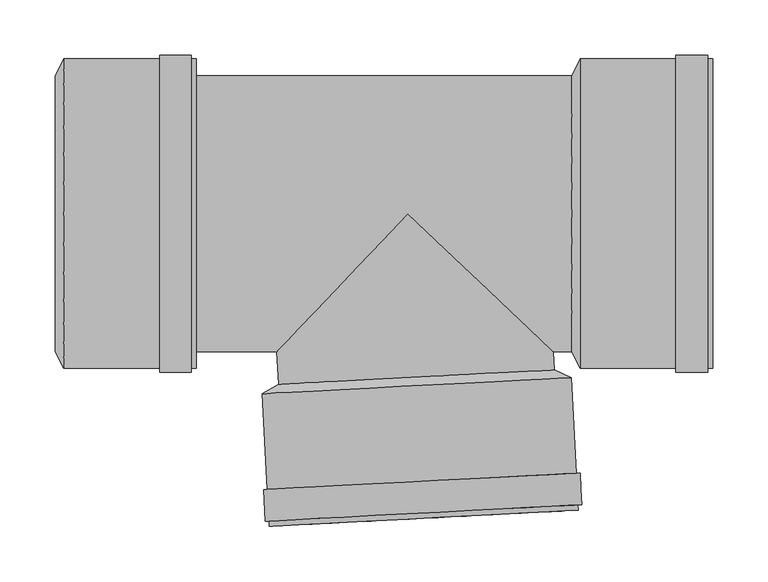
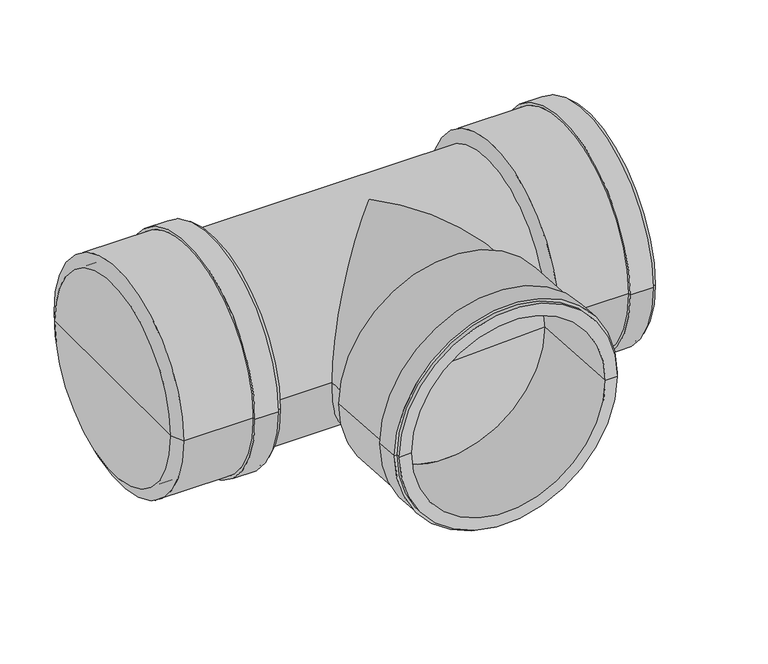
"""IFC4 building model written with IfcOpenShell, lengths in millimetres: pipe fitting geometry, pf_KGEA : pf_KGEA."""

import ifcopenshell
import ifcopenshell.guid

model = None  # the IFC model being written
_history = None  # IfcOwnerHistory: only IFC2X3 demands one
_inside = {}  # id of a spatial element -> (the spatial element, [elements in it])
_under = {}  # id of a project, library or spatial element -> (it, [spatial elements below it])
_declared = {}  # id of a project -> (the project, [libraries it declares])
_typed = {}  # id of a type object -> (the type object, [elements of that type])
_made_of = {}  # id of a material, layer set ... -> (it, [elements and type objects made of it])


def new_model(schema):
    """Start an empty IFC model of exactly this schema.

    Asked for "IFC4X3", IfcOpenShell would pick the latest addendum, in which some entities
    have other attributes; the version numbers below select the first issue.
    IFC2X3 requires an IfcOwnerHistory on every rooted entity: one is made here for all.
    """
    global model, _history
    if schema == "IFC4X3":
        model = ifcopenshell.file(schema_version=(4, 3, 0, 0))
    else:
        model = ifcopenshell.file(schema=schema)
    _inside.clear()
    _under.clear()
    _declared.clear()
    _typed.clear()
    _made_of.clear()
    _history = None
    if model.schema == "IFC2X3":
        org = make("IfcOrganization", Name="unknown")
        user = make(
            "IfcPersonAndOrganization",
            ThePerson=make("IfcPerson", FamilyName="unknown"),
            TheOrganization=org,
        )
        app = make(
            "IfcApplication",
            ApplicationDeveloper=org,
            Version="unknown",
            ApplicationFullName="unknown",
            ApplicationIdentifier="unknown",
        )
        _history = make(
            "IfcOwnerHistory",
            OwningUser=user,
            OwningApplication=app,
            ChangeAction="ADDED",
            CreationDate=0,
        )
    return model


def make(cls, **values):
    """One entity of the class cls with the attributes given. An attribute that is None is left unset."""
    return model.create_entity(
        cls, **{name: value for name, value in values.items() if value is not None}
    )


def rooted(cls, **values):
    """An entity with a GlobalId (a new one), such as an element, a storey or a relation."""
    return make(cls, GlobalId=ifcopenshell.guid.new(), OwnerHistory=_history, **values)


def si_unit(unit_type, name, prefix=None):
    """IfcSIUnit, for example si_unit("LENGTHUNIT", "METRE", prefix="MILLI")."""
    return make("IfcSIUnit", UnitType=unit_type, Prefix=prefix, Name=name)


def assignment(units):
    """IfcUnitAssignment: the units of a project."""
    return None if units is None else make("IfcUnitAssignment", Units=units)


def point(xyz):
    """IfcCartesianPoint."""
    return None if xyz is None else make("IfcCartesianPoint", Coordinates=xyz)


def direction(xyz):
    """IfcDirection."""
    return None if xyz is None else make("IfcDirection", DirectionRatios=xyz)


def frame(location, z_axis=None, x_axis=None):
    """IfcAxis2Placement3D, a coordinate frame: its origin and axes. An axis left out is left unset."""
    return make(
        "IfcAxis2Placement3D",
        Location=point(location),
        Axis=direction(z_axis),
        RefDirection=direction(x_axis),
    )


def origin():
    """The frame at (0, 0, 0) with its axes left unset."""
    return frame((0.0, 0.0, 0.0))


def place(relative_to, where):
    """IfcLocalPlacement: puts the frame where relative to a parent placement (None: the world)."""
    return make(
        "IfcLocalPlacement", PlacementRelTo=relative_to, RelativePlacement=where
    )


def context(
    kind, dimensions, precision=None, world=None, true_north=None, identifier=None
):
    """IfcGeometricRepresentationContext, for example the 3D "Model" context."""
    return make(
        "IfcGeometricRepresentationContext",
        ContextIdentifier=identifier,
        ContextType=kind,
        CoordinateSpaceDimension=dimensions,
        Precision=precision,
        WorldCoordinateSystem=world,
        TrueNorth=true_north,
    )


def project(units=None, contexts=None):
    """IfcProject with its units and contexts."""
    return rooted(
        "IfcProject",
        Name="project",
        RepresentationContexts=contexts,
        UnitsInContext=assignment(units),
    )


def spatial(cls, under=None, at=None, **own):
    """A site, building, storey or space (cls), placed at a placement, below another one or the project."""
    s = rooted(cls, ObjectPlacement=at, **own)
    if under is not None:
        _under.setdefault(under.id(), (under, []))[1].append(s)
    return s


def polyline(points):
    """IfcPolyline through the points."""
    return make("IfcPolyline", Points=[point(p) for p in points])


def circle_curve(where, radius):
    """IfcCircle in the frame where."""
    return make("IfcCircle", Position=where, Radius=radius)


def ellipse_curve(where, semi_axis1, semi_axis2):
    """IfcEllipse in the frame where."""
    return make(
        "IfcEllipse", Position=where, SemiAxis1=semi_axis1, SemiAxis2=semi_axis2
    )


def shape(context_of_items, identifier, shape_type, items):
    """IfcShapeRepresentation: the items that make up one representation, for example the "Body"."""
    return make(
        "IfcShapeRepresentation",
        ContextOfItems=context_of_items,
        RepresentationIdentifier=identifier,
        RepresentationType=shape_type,
        Items=items,
    )


def source(mapping_origin, context_of_items, identifier, shape_type, items):
    """IfcRepresentationMap: a shape defined once, which mapped items show again and again."""
    return make(
        "IfcRepresentationMap",
        MappingOrigin=mapping_origin,
        MappedRepresentation=shape(context_of_items, identifier, shape_type, items),
    )


def transform(
    local_origin,
    x_axis=None,
    y_axis=None,
    z_axis=None,
    scale=None,
    scale2=None,
    scale3=None,
    uniform=True,
):
    """IfcCartesianTransformationOperator3D, or its non-uniform kind. x_axis, y_axis, z_axis: its Axis1, 2, 3."""
    if uniform:
        return make(
            "IfcCartesianTransformationOperator3D",
            Axis1=direction(x_axis),
            Axis2=direction(y_axis),
            LocalOrigin=point(local_origin),
            Scale=scale,
            Axis3=direction(z_axis),
        )
    return make(
        "IfcCartesianTransformationOperator3DnonUniform",
        Axis1=direction(x_axis),
        Axis2=direction(y_axis),
        LocalOrigin=point(local_origin),
        Scale=scale,
        Axis3=direction(z_axis),
        Scale2=scale2,
        Scale3=scale3,
    )


def mapped(mapping_source, mapping_target):
    """IfcMappedItem: shows the shape of a source again, moved by a transform."""
    return make(
        "IfcMappedItem", MappingSource=mapping_source, MappingTarget=mapping_target
    )


def made_of(thing, what):
    """Note that an element or type object is made of a material, layer set ...; save() writes the relation."""
    if what is not None:
        _made_of.setdefault(what.id(), (what, []))[1].append(thing)
    return thing


def element(
    cls,
    number,
    at=None,
    inside=None,
    cuts=None,
    type_object=None,
    material=None,
    context=None,
    identifier="Body",
    shape_type=None,
    held_by="IfcProductDefinitionShape",
    body=None,
    shapes=None,
    **own,
):
    """One element of the class cls, such as IfcWall. Its Tag is "e" and its number.

    at: its placement. inside: the storey or other place that contains it. cuts: it is an
    opening in that element (IfcRelVoidsElement). A single representation is given by context,
    identifier, shape_type and body (its items); several are given by shapes. held_by: the class
    of the entity that holds the representations. save() writes the other relations.
    """
    e = rooted(cls, Tag="e%d" % number, ObjectPlacement=at, **own)
    if body is not None:
        shapes = [shape(context, identifier, shape_type, body)]
    if shapes is not None:
        e.Representation = make(held_by, Representations=shapes)
    if inside is not None:
        _inside.setdefault(inside.id(), (inside, []))[1].append(e)
    if cuts is not None:
        rooted(
            "IfcRelVoidsElement", RelatingBuildingElement=cuts, RelatedOpeningElement=e
        )
    if type_object is not None:
        _typed.setdefault(type_object.id(), (type_object, []))[1].append(e)
    return made_of(e, material)


def aggregate(whole, parts):
    """IfcRelAggregates: a whole, such as a stair, and the parts it consists of."""
    return rooted("IfcRelAggregates", RelatingObject=whole, RelatedObjects=parts)


def save(model, path):
    """Write the relations noted so far, then the file.

    IfcRelAggregates (storeys below a building ...), IfcRelContainedInSpatialStructure (elements
    in a storey), IfcRelDefinesByType, IfcRelAssociatesMaterial and IfcRelDeclares: one each for
    every whole, place, type object, material and project.
    """
    for whole, parts in _under.values():
        aggregate(whole, parts)
    for where, things in _inside.values():
        rooted(
            "IfcRelContainedInSpatialStructure",
            RelatedElements=things,
            RelatingStructure=where,
        )
    for kind, things in _typed.values():
        rooted("IfcRelDefinesByType", RelatedObjects=things, RelatingType=kind)
    for what, things in _made_of.values():
        rooted("IfcRelAssociatesMaterial", RelatedObjects=things, RelatingMaterial=what)
    for by, libraries in _declared.values():
        rooted("IfcRelDeclares", RelatingContext=by, RelatedDefinitions=libraries)
    model.write(path)


def plane_surface(at):
    """IfcPlane: the flat surface through the origin of the frame at, square to its z axis."""
    return make("IfcPlane", Position=at)


def cylinder_surface(at, radius):
    """IfcCylindricalSurface: all points at the distance radius from the z axis of the frame at."""
    return make("IfcCylindricalSurface", Position=at, Radius=radius)


def revolved_surface(curve, axis_point, axis_direction):
    """IfcSurfaceOfRevolution: the curve turned about the line through axis_point along axis_direction."""
    return make(
        "IfcSurfaceOfRevolution",
        SweptCurve=make("IfcArbitraryOpenProfileDef", ProfileType="CURVE", Curve=curve),
        AxisPosition=make("IfcAxis1Placement", Location=point(axis_point), Axis=direction(axis_direction)),
    )


def advanced_brep(points, edges, surfaces, faces):
    """IfcAdvancedBrep: a solid bounded by faces that lie on surfaces and meet in shared edges.

    An edge is (start, end): straight between two places in points (the first is 0);
    or (start, end, curve); or (start, end, curve, False) where it runs against its curve.
    A face is (place in surfaces, loops), or (place, loops, False) where it looks against
    its surface's normal. A loop lists edges by number (the first is 1), with a minus sign
    where the edge is run from its end to its start. The first loop is the outer one.
    """
    corners = [point(p) for p in points]
    vertices = [make("IfcVertexPoint", VertexGeometry=c) for c in corners]
    made = []
    for start, end, *more in edges:
        made.append(
            make(
                "IfcEdgeCurve",
                EdgeStart=vertices[start],
                EdgeEnd=vertices[end],
                EdgeGeometry=more[0] if more else make("IfcPolyline", Points=[corners[start], corners[end]]),
                SameSense=more[1] if len(more) > 1 else True,
            )
        )
    hull = []
    for where, loops, *sense in faces:
        bounds = []
        for j, loop in enumerate(loops):
            ring = [make("IfcOrientedEdge", EdgeElement=made[abs(k) - 1], Orientation=k > 0) for k in loop]
            bounds.append(
                make(
                    "IfcFaceOuterBound" if j == 0 else "IfcFaceBound",
                    Bound=make("IfcEdgeLoop", EdgeList=ring),
                    Orientation=True,
                )
            )
        hull.append(make("IfcAdvancedFace", Bounds=bounds, FaceSurface=surfaces[where], SameSense=sense[0] if sense else True))
    return make("IfcAdvancedBrep", Outer=make("IfcClosedShell", CfsFaces=hull))


def pipe_fitting_2def1864(model_context):
    return source(origin(), model_context, "Body", "AdvancedBrep", [
        advanced_brep(
        [(-117.0672695, -154.6387545, 0.0), (132.5901142, -141.5547655, 0.0), (148.072407, -148.45394, 0.0), (-131.7435886, -163.1184749, 0.0), (7.7614223, -148.09676, 0.0), (-125.4475731, -283.2536079, 0.0), (154.3684225, -268.589073, 0.0), (139.2891166, -269.3793459, 0.0), (-110.3682671, -282.463335, 0.0), (-125.6987857, -278.4601862, 0.0), (154.1172099, -263.7956512, 0.0), (-129.0941261, -278.6381284, 0.0), (157.5125504, -263.617709, 0.0), (-130.5961681, -249.9774608, 0.0), (156.0105084, -234.9570413, 0.0), (-127.2008276, -249.7995185, 0.0), (152.615168, -235.1349836, 0.0), (-116.6642827, -162.328202, 0.0), (132.993101, -149.2442129, 0.0), (8.1644092, -155.7862074, 0.0)],
        [
            (0, 1, circle_curve(frame((7.7614223, -148.09676, 0.0), z_axis=(0.05233595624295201, -0.9986295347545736, 0.0), x_axis=(0.9986295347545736, 0.05233595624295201, 0.0)), 125.0)),
            (1, 2),
            (2, 3, circle_curve(frame((8.1644092, -155.7862074, 0.0), z_axis=(-0.05233595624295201, 0.9986295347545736, 0.0), x_axis=(0.9986295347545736, 0.05233595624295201, 0.0)), 140.1)),
            (3, 0),
            (1, 0, circle_curve(frame((7.7614223, -148.09676, 0.0), z_axis=(0.05233595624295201, -0.9986295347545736, 0.0), x_axis=(0.9986295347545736, 0.05233595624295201, 0.0)), 125.0)),
            (3, 2, circle_curve(frame((8.1644092, -155.7862074, 0.0), z_axis=(-0.05233595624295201, 0.9986295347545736, 0.0), x_axis=(0.9986295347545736, 0.05233595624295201, 0.0)), 140.1)),
            (4, 1),
            (0, 4),
            (5, 6, circle_curve(frame((14.4604247, -275.9213405, 0.0), z_axis=(0.05233595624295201, -0.9986295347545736, 0.0), x_axis=(0.9986295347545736, 0.05233595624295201, 0.0)), 140.1)),
            (6, 7),
            (7, 8, circle_curve(frame((14.4604247, -275.9213405, 0.0), z_axis=(-0.05233595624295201, 0.9986295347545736, 0.0), x_axis=(0.9986295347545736, 0.05233595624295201, 0.0)), 125.0)),
            (8, 5),
            (6, 5, circle_curve(frame((14.4604247, -275.9213405, 0.0), z_axis=(0.05233595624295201, -0.9986295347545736, 0.0), x_axis=(0.9986295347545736, 0.05233595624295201, 0.0)), 140.1)),
            (8, 7, circle_curve(frame((14.4604247, -275.9213405, 0.0), z_axis=(-0.05233595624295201, 0.9986295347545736, 0.0), x_axis=(0.9986295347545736, 0.05233595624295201, 0.0)), 125.0)),
            (9, 10, circle_curve(frame((14.2092121, -271.1279187, 0.0), z_axis=(0.05233595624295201, -0.9986295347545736, 0.0), x_axis=(0.9986295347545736, 0.05233595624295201, 0.0)), 140.1)),
            (10, 6),
            (5, 9),
            (10, 9, circle_curve(frame((14.2092121, -271.1279187, 0.0), z_axis=(0.05233595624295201, -0.9986295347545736, 0.0), x_axis=(0.9986295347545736, 0.05233595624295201, 0.0)), 140.1)),
            (11, 12, circle_curve(frame((14.2092121, -271.1279187, 0.0), z_axis=(0.05233595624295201, -0.9986295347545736, 0.0), x_axis=(0.9986295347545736, 0.05233595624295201, 0.0)), 143.5)),
            (12, 10),
            (9, 11),
            (12, 11, circle_curve(frame((14.2092121, -271.1279187, 0.0), z_axis=(0.05233595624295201, -0.9986295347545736, 0.0), x_axis=(0.9986295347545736, 0.05233595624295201, 0.0)), 143.5)),
            (13, 14, circle_curve(frame((12.7071702, -242.467251, 0.0), z_axis=(0.05233595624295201, -0.9986295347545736, 0.0), x_axis=(0.9986295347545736, 0.05233595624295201, 0.0)), 143.5)),
            (14, 12),
            (11, 13),
            (14, 13, circle_curve(frame((12.7071702, -242.467251, 0.0), z_axis=(0.05233595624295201, -0.9986295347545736, 0.0), x_axis=(0.9986295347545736, 0.05233595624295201, 0.0)), 143.5)),
            (15, 16, circle_curve(frame((12.7071702, -242.467251, 0.0), z_axis=(0.05233595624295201, -0.9986295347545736, 0.0), x_axis=(0.9986295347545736, 0.05233595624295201, 0.0)), 140.1)),
            (16, 14),
            (13, 15),
            (16, 15, circle_curve(frame((12.7071702, -242.467251, 0.0), z_axis=(0.05233595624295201, -0.9986295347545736, 0.0), x_axis=(0.9986295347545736, 0.05233595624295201, 0.0)), 140.1)),
            (2, 16),
            (15, 3),
            (17, 18, circle_curve(frame((8.1644092, -155.7862074, 0.0), z_axis=(0.05233595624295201, -0.9986295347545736, 0.0), x_axis=(0.9986295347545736, 0.05233595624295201, 0.0)), 125.0)),
            (18, 19),
            (19, 17),
            (18, 17, circle_curve(frame((8.1644092, -155.7862074, 0.0), z_axis=(0.05233595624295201, -0.9986295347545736, 0.0), x_axis=(0.9986295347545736, 0.05233595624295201, 0.0)), 125.0)),
            (7, 18),
            (17, 8),
        ],
        [
            revolved_surface(polyline([(148.072407, -148.45394, 0.0), (132.5901142, -141.5547655, 0.0)]), (7.7614223, -148.09676, 0.0), (-0.05233595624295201, 0.9986295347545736, 0.0)),
            plane_surface(frame((7.7614223, -148.09676, 0.0), z_axis=(-0.05233595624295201, 0.9986295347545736, 0.0), x_axis=(0.9986295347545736, 0.05233595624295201, 0.0))),
            plane_surface(frame((14.4604247, -275.9213405, 0.0), z_axis=(0.05233595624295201, -0.9986295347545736, 0.0), x_axis=(0.9986295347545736, 0.05233595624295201, 0.0))),
            cylinder_surface(frame((7.7614223, -148.09676, 0.0), z_axis=(-0.05233595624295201, 0.9986295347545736, 0.0), x_axis=(0.9986295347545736, 0.05233595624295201, 0.0)), 140.1),
            plane_surface(frame((14.2092121, -271.1279187, 0.0), z_axis=(0.05233595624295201, -0.9986295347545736, 0.0), x_axis=(0.9986295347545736, 0.05233595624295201, 0.0))),
            cylinder_surface(frame((7.7614223, -148.09676, 0.0), z_axis=(-0.05233595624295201, 0.9986295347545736, 0.0), x_axis=(0.9986295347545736, 0.05233595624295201, 0.0)), 143.5),
            plane_surface(frame((12.7071702, -242.467251, 0.0), z_axis=(-0.05233595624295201, 0.9986295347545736, 0.0), x_axis=(0.9986295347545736, 0.05233595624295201, 0.0))),
            plane_surface(frame((8.1644092, -155.7862074, 0.0), z_axis=(0.05233595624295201, -0.9986295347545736, 0.0), x_axis=(0.9986295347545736, 0.05233595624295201, 0.0))),
            revolved_surface(polyline([(132.9931010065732, -149.2442128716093, 0.0), (139.28911654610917, -269.3793459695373, 0.0)]), (7.7614223, -148.09676, 0.0), (-0.05233595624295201, 0.9986295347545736, 0.0)),
        ],
        [
            (0, [[1, 2, 3, 4]]),
            (0, [[5, -4, 6, -2]]),
            (1, [[7, -1, 8]]),
            (1, [[-8, -5, -7]]),
            (2, [[9, 10, 11, 12]]),
            (2, [[13, -12, 14, -10]]),
            (3, [[15, 16, -9, 17]]),
            (3, [[18, -17, -13, -16]]),
            (4, [[19, 20, -15, 21]]),
            (4, [[22, -21, -18, -20]]),
            (5, [[23, 24, -19, 25]]),
            (5, [[26, -25, -22, -24]]),
            (6, [[27, 28, -23, 29]]),
            (6, [[30, -29, -26, -28]]),
            (3, [[-3, 31, -27, 32]]),
            (3, [[-6, -32, -30, -31]]),
            (7, [[33, 34, 35]]),
            (7, [[36, -35, -34]]),
            (8, [[-11, 37, -33, 38]]),
            (8, [[-14, -38, -36, -37]]),
        ],
    ),
        advanced_brep(
        [(148.3, -125.0, 0.0), (148.3, 125.0, 0.0), (156.0, 140.1, 0.0), (156.0, -140.1, 0.0), (148.3, 0.0, 0.0), (276.3, -140.1, 0.0), (276.3, 140.1, 0.0), (276.3, 125.0, 0.0), (276.3, -125.0, 0.0), (271.5, -140.1, 0.0), (271.5, 140.1, 0.0), (271.5, -143.5, 0.0), (271.5, 143.5, 0.0), (242.8, -143.5, 0.0), (242.8, 143.5, 0.0), (242.8, -140.1, 0.0), (242.8, 140.1, 0.0), (156.0, -125.0, 0.0), (156.0, 125.0, 0.0), (156.0, 0.0, 0.0)],
        [
            (0, 1, circle_curve(frame((148.3, 0.0, 0.0), z_axis=(1.0, 0.0, 0.0), x_axis=(0.0, 1.0, 0.0)), 125.0)),
            (1, 2),
            (2, 3, circle_curve(frame((156.0, 0.0, 0.0), z_axis=(-1.0, 0.0, 0.0), x_axis=(0.0, 1.0, 0.0)), 140.1)),
            (3, 0),
            (1, 0, circle_curve(frame((148.3, 0.0, 0.0), z_axis=(1.0, 0.0, 0.0), x_axis=(0.0, 1.0, 0.0)), 125.0)),
            (3, 2, circle_curve(frame((156.0, 0.0, 0.0), z_axis=(-1.0, 0.0, 0.0), x_axis=(0.0, 1.0, 0.0)), 140.1)),
            (4, 1),
            (0, 4),
            (5, 6, circle_curve(frame((276.3, 0.0, 0.0), z_axis=(1.0, 0.0, 0.0), x_axis=(0.0, 1.0, 0.0)), 140.1)),
            (6, 7),
            (7, 8, circle_curve(frame((276.3, 0.0, 0.0), z_axis=(-1.0, 0.0, 0.0), x_axis=(0.0, 1.0, 0.0)), 125.0)),
            (8, 5),
            (6, 5, circle_curve(frame((276.3, 0.0, 0.0), z_axis=(1.0, 0.0, 0.0), x_axis=(0.0, 1.0, 0.0)), 140.1)),
            (8, 7, circle_curve(frame((276.3, 0.0, 0.0), z_axis=(-1.0, 0.0, 0.0), x_axis=(0.0, 1.0, 0.0)), 125.0)),
            (9, 10, circle_curve(frame((271.5, 0.0, 0.0), z_axis=(1.0, 0.0, 0.0), x_axis=(0.0, 1.0, 0.0)), 140.1)),
            (10, 6),
            (5, 9),
            (10, 9, circle_curve(frame((271.5, 0.0, 0.0), z_axis=(1.0, 0.0, 0.0), x_axis=(0.0, 1.0, 0.0)), 140.1)),
            (11, 12, circle_curve(frame((271.5, 0.0, 0.0), z_axis=(1.0, 0.0, 0.0), x_axis=(0.0, 1.0, 0.0)), 143.5)),
            (12, 10),
            (9, 11),
            (12, 11, circle_curve(frame((271.5, 0.0, 0.0), z_axis=(1.0, 0.0, 0.0), x_axis=(0.0, 1.0, 0.0)), 143.5)),
            (13, 14, circle_curve(frame((242.8, 0.0, 0.0), z_axis=(1.0, 0.0, 0.0), x_axis=(0.0, 1.0, 0.0)), 143.5)),
            (14, 12),
            (11, 13),
            (14, 13, circle_curve(frame((242.8, 0.0, 0.0), z_axis=(1.0, 0.0, 0.0), x_axis=(0.0, 1.0, 0.0)), 143.5)),
            (15, 16, circle_curve(frame((242.8, 0.0, 0.0), z_axis=(1.0, 0.0, 0.0), x_axis=(0.0, 1.0, 0.0)), 140.1)),
            (16, 14),
            (13, 15),
            (16, 15, circle_curve(frame((242.8, 0.0, 0.0), z_axis=(1.0, 0.0, 0.0), x_axis=(0.0, 1.0, 0.0)), 140.1)),
            (2, 16),
            (15, 3),
            (17, 18, circle_curve(frame((156.0, 0.0, 0.0), z_axis=(1.0, 0.0, 0.0), x_axis=(0.0, 1.0, 0.0)), 125.0)),
            (18, 19),
            (19, 17),
            (18, 17, circle_curve(frame((156.0, 0.0, 0.0), z_axis=(1.0, 0.0, 0.0), x_axis=(0.0, 1.0, 0.0)), 125.0)),
            (7, 18),
            (17, 8),
        ],
        [
            revolved_surface(polyline([(156.0, 140.1, 0.0), (148.3, 125.0, 0.0)]), (148.3, 0.0, 0.0), (-1.0, 0.0, 0.0)),
            plane_surface(frame((148.3, 0.0, 0.0), z_axis=(-1.0, 0.0, 0.0), x_axis=(0.0, 1.0, 0.0))),
            plane_surface(frame((276.3, 0.0, 0.0), z_axis=(1.0, 0.0, 0.0), x_axis=(0.0, 1.0, 0.0))),
            cylinder_surface(frame((148.3, 0.0, 0.0), z_axis=(-1.0, 0.0, 0.0), x_axis=(0.0, 1.0, 0.0)), 140.1),
            plane_surface(frame((271.5, 0.0, 0.0), z_axis=(1.0, 0.0, 0.0), x_axis=(0.0, 1.0, 0.0))),
            cylinder_surface(frame((148.3, 0.0, 0.0), z_axis=(-1.0, 0.0, 0.0), x_axis=(0.0, 1.0, 0.0)), 143.5),
            plane_surface(frame((242.8, 0.0, 0.0), z_axis=(-1.0, 0.0, 0.0), x_axis=(0.0, 1.0, 0.0))),
            plane_surface(frame((156.0, 0.0, 0.0), z_axis=(1.0, 0.0, 0.0), x_axis=(0.0, 1.0, 0.0))),
            revolved_surface(polyline([(156.0, 125.0, 0.0), (276.3, 125.0, 0.0)]), (148.3, 0.0, 0.0), (-1.0, 0.0, 0.0)),
        ],
        [
            (0, [[1, 2, 3, 4]]),
            (0, [[5, -4, 6, -2]]),
            (1, [[7, -1, 8]]),
            (1, [[-8, -5, -7]]),
            (2, [[9, 10, 11, 12]]),
            (2, [[13, -12, 14, -10]]),
            (3, [[15, 16, -9, 17]]),
            (3, [[18, -17, -13, -16]]),
            (4, [[19, 20, -15, 21]]),
            (4, [[22, -21, -18, -20]]),
            (5, [[23, 24, -19, 25]]),
            (5, [[26, -25, -22, -24]]),
            (6, [[27, 28, -23, 29]]),
            (6, [[30, -29, -26, -28]]),
            (3, [[-3, 31, -27, 32]]),
            (3, [[-6, -32, -30, -31]]),
            (7, [[33, 34, 35]]),
            (7, [[36, -35, -34]]),
            (8, [[-11, 37, -33, 38]]),
            (8, [[-14, -38, -36, -37]]),
        ],
    ),
        advanced_brep(
        [(-319.4, -125.0, 0.0), (-319.4, 125.0, 0.0), (-311.7, 140.1, 0.0), (-311.7, -140.1, 0.0), (-319.4, 0.0, 0.0), (-191.4, -140.1, 0.0), (-191.4, 140.1, 0.0), (-191.4, 125.0, 0.0), (-191.4, -125.0, 0.0), (-196.2, -140.1, 0.0), (-196.2, 140.1, 0.0), (-196.2, -143.5, 0.0), (-196.2, 143.5, 0.0), (-224.9, -143.5, 0.0), (-224.9, 143.5, 0.0), (-224.9, -140.1, 0.0), (-224.9, 140.1, 0.0), (-311.7, -125.0, 0.0), (-311.7, 125.0, 0.0), (-311.7, 0.0, 0.0)],
        [
            (0, 1, circle_curve(frame((-319.4, 0.0, 0.0), z_axis=(1.0, 0.0, 0.0), x_axis=(0.0, 1.0, 0.0)), 125.0)),
            (1, 2),
            (2, 3, circle_curve(frame((-311.7, 0.0, 0.0), z_axis=(-1.0, 0.0, 0.0), x_axis=(0.0, 1.0, 0.0)), 140.1)),
            (3, 0),
            (1, 0, circle_curve(frame((-319.4, 0.0, 0.0), z_axis=(1.0, 0.0, 0.0), x_axis=(0.0, 1.0, 0.0)), 125.0)),
            (3, 2, circle_curve(frame((-311.7, 0.0, 0.0), z_axis=(-1.0, 0.0, 0.0), x_axis=(0.0, 1.0, 0.0)), 140.1)),
            (4, 1),
            (0, 4),
            (5, 6, circle_curve(frame((-191.4, 0.0, 0.0), z_axis=(1.0, 0.0, 0.0), x_axis=(0.0, 1.0, 0.0)), 140.1)),
            (6, 7),
            (7, 8, circle_curve(frame((-191.4, 0.0, 0.0), z_axis=(-1.0, 0.0, 0.0), x_axis=(0.0, 1.0, 0.0)), 125.0)),
            (8, 5),
            (6, 5, circle_curve(frame((-191.4, 0.0, 0.0), z_axis=(1.0, 0.0, 0.0), x_axis=(0.0, 1.0, 0.0)), 140.1)),
            (8, 7, circle_curve(frame((-191.4, 0.0, 0.0), z_axis=(-1.0, 0.0, 0.0), x_axis=(0.0, 1.0, 0.0)), 125.0)),
            (9, 10, circle_curve(frame((-196.2, 0.0, 0.0), z_axis=(1.0, 0.0, 0.0), x_axis=(0.0, 1.0, 0.0)), 140.1)),
            (10, 6),
            (5, 9),
            (10, 9, circle_curve(frame((-196.2, 0.0, 0.0), z_axis=(1.0, 0.0, 0.0), x_axis=(0.0, 1.0, 0.0)), 140.1)),
            (11, 12, circle_curve(frame((-196.2, 0.0, 0.0), z_axis=(1.0, 0.0, 0.0), x_axis=(0.0, 1.0, 0.0)), 143.5)),
            (12, 10),
            (9, 11),
            (12, 11, circle_curve(frame((-196.2, 0.0, 0.0), z_axis=(1.0, 0.0, 0.0), x_axis=(0.0, 1.0, 0.0)), 143.5)),
            (13, 14, circle_curve(frame((-224.9, 0.0, 0.0), z_axis=(1.0, 0.0, 0.0), x_axis=(0.0, 1.0, 0.0)), 143.5)),
            (14, 12),
            (11, 13),
            (14, 13, circle_curve(frame((-224.9, 0.0, 0.0), z_axis=(1.0, 0.0, 0.0), x_axis=(0.0, 1.0, 0.0)), 143.5)),
            (15, 16, circle_curve(frame((-224.9, 0.0, 0.0), z_axis=(1.0, 0.0, 0.0), x_axis=(0.0, 1.0, 0.0)), 140.1)),
            (16, 14),
            (13, 15),
            (16, 15, circle_curve(frame((-224.9, 0.0, 0.0), z_axis=(1.0, 0.0, 0.0), x_axis=(0.0, 1.0, 0.0)), 140.1)),
            (2, 16),
            (15, 3),
            (17, 18, circle_curve(frame((-311.7, 0.0, 0.0), z_axis=(1.0, 0.0, 0.0), x_axis=(0.0, 1.0, 0.0)), 125.0)),
            (18, 19),
            (19, 17),
            (18, 17, circle_curve(frame((-311.7, 0.0, 0.0), z_axis=(1.0, 0.0, 0.0), x_axis=(0.0, 1.0, 0.0)), 125.0)),
            (7, 18),
            (17, 8),
        ],
        [
            revolved_surface(polyline([(-311.7, 140.1, 0.0), (-319.4, 125.0, 0.0)]), (-319.4, 0.0, 0.0), (-1.0, 0.0, 0.0)),
            plane_surface(frame((-319.4, 0.0, 0.0), z_axis=(-1.0, 0.0, 0.0), x_axis=(0.0, 1.0, 0.0))),
            plane_surface(frame((-191.4, 0.0, 0.0), z_axis=(1.0, 0.0, 0.0), x_axis=(0.0, 1.0, 0.0))),
            cylinder_surface(frame((-319.4, 0.0, 0.0), z_axis=(-1.0, 0.0, 0.0), x_axis=(0.0, 1.0, 0.0)), 140.1),
            plane_surface(frame((-196.2, 0.0, 0.0), z_axis=(1.0, 0.0, 0.0), x_axis=(0.0, 1.0, 0.0))),
            cylinder_surface(frame((-319.4, 0.0, 0.0), z_axis=(-1.0, 0.0, 0.0), x_axis=(0.0, 1.0, 0.0)), 143.5),
            plane_surface(frame((-224.9, 0.0, 0.0), z_axis=(-1.0, 0.0, 0.0), x_axis=(0.0, 1.0, 0.0))),
            plane_surface(frame((-311.7, 0.0, 0.0), z_axis=(1.0, 0.0, 0.0), x_axis=(0.0, 1.0, 0.0))),
            revolved_surface(polyline([(-311.7, 125.0, 0.0), (-191.4, 125.0, 0.0)]), (-319.4, 0.0, 0.0), (-1.0, 0.0, 0.0)),
        ],
        [
            (0, [[1, 2, 3, 4]]),
            (0, [[5, -4, 6, -2]]),
            (1, [[7, -1, 8]]),
            (1, [[-8, -5, -7]]),
            (2, [[9, 10, 11, 12]]),
            (2, [[13, -12, 14, -10]]),
            (3, [[15, 16, -9, 17]]),
            (3, [[18, -17, -13, -16]]),
            (4, [[19, 20, -15, 21]]),
            (4, [[22, -21, -18, -20]]),
            (5, [[23, 24, -19, 25]]),
            (5, [[26, -25, -22, -24]]),
            (6, [[27, 28, -23, 29]]),
            (6, [[30, -29, -26, -28]]),
            (3, [[-3, 31, -27, 32]]),
            (3, [[-6, -32, -30, -31]]),
            (7, [[33, 34, 35]]),
            (7, [[36, -35, -34]]),
            (8, [[-11, 37, -33, 38]]),
            (8, [[-14, -38, -36, -37]]),
        ],
    ),
        advanced_brep(
        [(-311.7, -125.0, 0.0), (-311.7, 125.0, 0.0), (148.3, -125.0, 0.0), (148.3, 125.0, 0.0), (-118.6205708, -125.0, 0.0), (0.0, 0.0, 125.0), (131.7225157, -125.0, 0.0), (0.0, 0.0, -125.0), (-117.0672695, -154.6387545, 0.0), (132.5901142, -141.5547655, 0.0)],
        [
            (0, 1, circle_curve(frame((-311.7, 0.0, 0.0), z_axis=(-1.0, 0.0, 0.0), x_axis=(0.0, 1.0, 0.0)), 125.0)),
            (1, 0, circle_curve(frame((-311.7, 0.0, 0.0), z_axis=(-1.0, 0.0, 0.0), x_axis=(0.0, 1.0, 0.0)), 125.0)),
            (2, 3, circle_curve(frame((148.3, 0.0, 0.0), z_axis=(1.0, 0.0, 0.0), x_axis=(0.0, 1.0, 0.0)), 125.0)),
            (3, 2, circle_curve(frame((148.3, 0.0, 0.0), z_axis=(1.0, 0.0, 0.0), x_axis=(0.0, 1.0, 0.0)), 125.0)),
            (0, 4),
            (4, 5, ellipse_curve(frame((0.0, 0.0, 0.0), z_axis=(-0.7253743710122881, 0.6883545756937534, 0.0), x_axis=(-0.6883545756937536, -0.725374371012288, 0.0)), 172.3248091, 125.0)),
            (5, 6, ellipse_curve(frame((0.0, 0.0, 0.0), z_axis=(0.6883545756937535, 0.7253743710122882, 0.0), x_axis=(-0.7253743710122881, 0.6883545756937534, 0.0)), 181.5924589, 125.0)),
            (6, 2),
            (3, 1),
            (6, 7, ellipse_curve(frame((0.0, 0.0, 0.0), z_axis=(0.6883545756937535, 0.7253743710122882, 0.0), x_axis=(-0.7253743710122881, 0.6883545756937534, 0.0)), 181.5924589, 125.0)),
            (7, 4, ellipse_curve(frame((0.0, 0.0, 0.0), z_axis=(-0.7253743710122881, 0.6883545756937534, 0.0), x_axis=(-0.6883545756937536, -0.725374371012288, 0.0)), 172.3248091, 125.0)),
            (8, 9, circle_curve(frame((7.7614223, -148.09676, 0.0), z_axis=(0.052335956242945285, -0.9986295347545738, 0.0), x_axis=(0.9986295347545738, 0.052335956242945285, 0.0)), 125.0)),
            (9, 8, circle_curve(frame((7.7614223, -148.09676, 0.0), z_axis=(0.052335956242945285, -0.9986295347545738, 0.0), x_axis=(0.9986295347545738, 0.052335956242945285, 0.0)), 125.0)),
            (9, 6),
            (4, 8),
        ],
        [
            plane_surface(frame((-311.7, 0.0, 0.0), z_axis=(-1.0, 0.0, 0.0), x_axis=(0.0, 0.0, 1.0))),
            plane_surface(frame((148.3, 0.0, 0.0), z_axis=(1.0, 0.0, 0.0), x_axis=(0.0, 0.0, 1.0))),
            cylinder_surface(frame((-311.7, 0.0, 0.0), z_axis=(-1.0, 0.0, 0.0), x_axis=(0.0, 1.0, 0.0)), 125.0),
            plane_surface(frame((7.7614223, -148.09676, 0.0), z_axis=(0.05233595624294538, -0.9986295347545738, 0.0), x_axis=(0.0, 0.0, 1.0))),
            cylinder_surface(frame((0.0, 0.0, 0.0), z_axis=(-0.052335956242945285, 0.9986295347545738, 0.0), x_axis=(0.9986295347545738, 0.052335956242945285, 0.0)), 125.0),
        ],
        [
            (0, [[1, 2]]),
            (1, [[3, 4]]),
            (2, [[-1, 5, 6, 7, 8, -4, 9]]),
            (2, [[-2, -9, -3, -8, 10, 11, -5]]),
            (3, [[12, 13]]),
            (4, [[-13, 14, -7, -6, 15]]),
            (4, [[-12, -15, -11, -10, -14]]),
        ],
    ),
    ])


if __name__ == "__main__":
    model = new_model("IFC4")
    model_context = context("Model", 3, world=origin())
    ifc_project = project(units=[si_unit("LENGTHUNIT", "METRE", prefix="MILLI")], contexts=[model_context])
    site = spatial("IfcSite", under=ifc_project)
    building = spatial("IfcBuilding", under=site)
    placement = place(None, origin())
    pipe_fitting_shape = pipe_fitting_2def1864(model_context)
    element("IfcPipeFitting", 1, ObjectType="pf_KGEA : pf_KGEA", at=placement, inside=building, context=model_context, shape_type="MappedRepresentation", body=[
        mapped(pipe_fitting_shape, transform((0.0, 0.0, 0.0), x_axis=(1.0, 0.0, 0.0), y_axis=(0.0, 1.0, 0.0), z_axis=(0.0, 0.0, 1.0))),
    ])
    save(model, "model.ifc")
